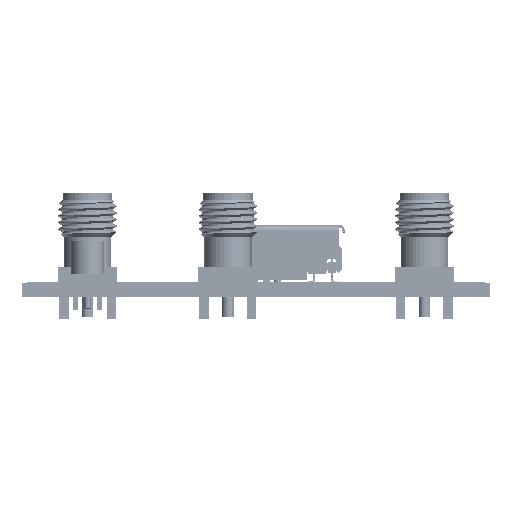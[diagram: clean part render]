
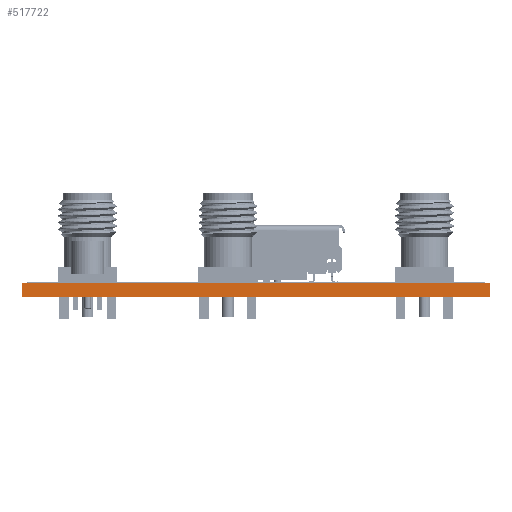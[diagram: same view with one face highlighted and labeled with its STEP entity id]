
A CAD part, left-side view. The second image highlights one B-rep face of the part: STEP entity #517722.
In plain terms, the highlighted planar face has unit normal (-1, 0, 0).
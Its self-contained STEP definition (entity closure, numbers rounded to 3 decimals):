
#517666 = VERTEX_POINT('',#517667);
#517667 = CARTESIAN_POINT('',(75.,-80.,1.51));
#517673 = EDGE_CURVE('',#517674,#517666,#517676,.T.);
#517674 = VERTEX_POINT('',#517675);
#517675 = CARTESIAN_POINT('',(75.,-80.,0.));
#517676 = LINE('',#517677,#517678);
#517677 = CARTESIAN_POINT('',(75.,-80.,0.));
#517678 = VECTOR('',#517679,1.);
#517679 = DIRECTION('',(0.,0.,1.));
#517722 = ADVANCED_FACE('',(#517723),#517748,.T.);
#517723 = FACE_BOUND('',#517724,.T.);
#517724 = EDGE_LOOP('',(#517725,#517726,#517734,#517742));
#517725 = ORIENTED_EDGE('',*,*,#517673,.T.);
#517726 = ORIENTED_EDGE('',*,*,#517727,.T.);
#517727 = EDGE_CURVE('',#517666,#517728,#517730,.T.);
#517728 = VERTEX_POINT('',#517729);
#517729 = CARTESIAN_POINT('',(75.,-30.,1.51));
#517730 = LINE('',#517731,#517732);
#517731 = CARTESIAN_POINT('',(75.,-80.,1.51));
#517732 = VECTOR('',#517733,1.);
#517733 = DIRECTION('',(0.,1.,0.));
#517734 = ORIENTED_EDGE('',*,*,#517735,.F.);
#517735 = EDGE_CURVE('',#517736,#517728,#517738,.T.);
#517736 = VERTEX_POINT('',#517737);
#517737 = CARTESIAN_POINT('',(75.,-30.,0.));
#517738 = LINE('',#517739,#517740);
#517739 = CARTESIAN_POINT('',(75.,-30.,0.));
#517740 = VECTOR('',#517741,1.);
#517741 = DIRECTION('',(0.,0.,1.));
#517742 = ORIENTED_EDGE('',*,*,#517743,.F.);
#517743 = EDGE_CURVE('',#517674,#517736,#517744,.T.);
#517744 = LINE('',#517745,#517746);
#517745 = CARTESIAN_POINT('',(75.,-80.,0.));
#517746 = VECTOR('',#517747,1.);
#517747 = DIRECTION('',(0.,1.,0.));
#517748 = PLANE('',#517749);
#517749 = AXIS2_PLACEMENT_3D('',#517750,#517751,#517752);
#517750 = CARTESIAN_POINT('',(75.,-80.,0.));
#517751 = DIRECTION('',(-1.,0.,0.));
#517752 = DIRECTION('',(0.,1.,0.));
